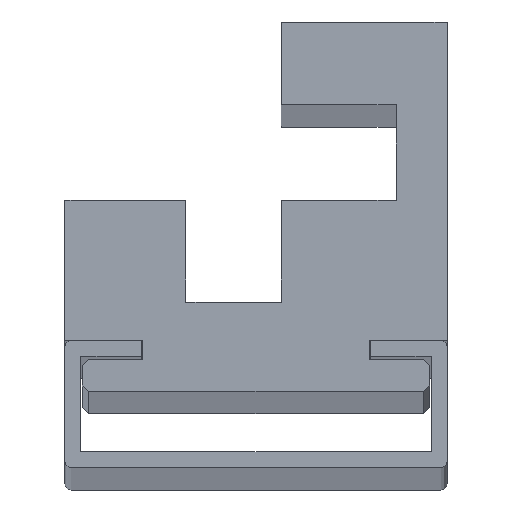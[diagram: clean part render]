
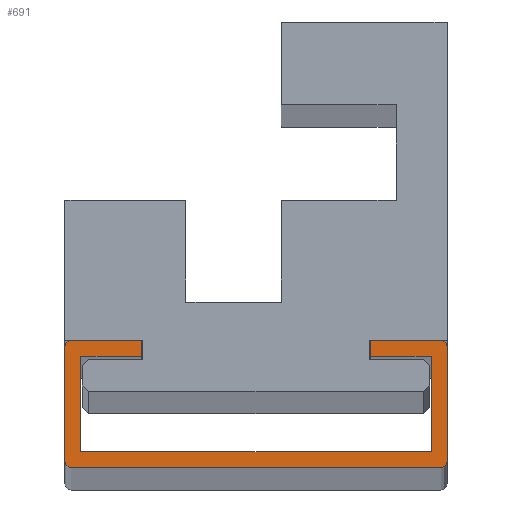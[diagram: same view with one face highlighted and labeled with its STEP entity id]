
A CAD part, top view. The second image highlights one B-rep face of the part: STEP entity #691.
In plain terms, the highlighted planar face has unit normal (0, 0, 1).
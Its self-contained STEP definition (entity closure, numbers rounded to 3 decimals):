
#14 = VERTEX_POINT ( 'NONE', #435 ) ;
#15 = DIRECTION ( 'NONE',  ( 1., 0., 0. ) ) ;
#21 = CIRCLE ( 'NONE', #1214, 1. ) ;
#34 = LINE ( 'NONE', #1415, #684 ) ;
#39 = CARTESIAN_POINT ( 'NONE',  ( 0., 19., 2000. ) ) ;
#40 = DIRECTION ( 'NONE',  ( 0., 1., 0. ) ) ;
#50 = CARTESIAN_POINT ( 'NONE',  ( 59., 20., 2000. ) ) ;
#63 = VERTEX_POINT ( 'NONE', #1074 ) ;
#73 = EDGE_CURVE ( 'NONE', #375, #246, #34, .T. ) ;
#79 = CARTESIAN_POINT ( 'NONE',  ( 57.5, 2.5, 2000. ) ) ;
#84 = CARTESIAN_POINT ( 'NONE',  ( 60., 1., 2000. ) ) ;
#88 = CARTESIAN_POINT ( 'NONE',  ( 57.5, 2.5, 2000. ) ) ;
#106 = CARTESIAN_POINT ( 'NONE',  ( 48., 20., 2000. ) ) ;
#125 = CARTESIAN_POINT ( 'NONE',  ( 12., 17.5, 2000. ) ) ;
#132 = EDGE_CURVE ( 'NONE', #1154, #1307, #1389, .T. ) ;
#179 = AXIS2_PLACEMENT_3D ( 'NONE', #242, #748, #1062 ) ;
#186 = EDGE_CURVE ( 'NONE', #63, #375, #1044, .T. ) ;
#197 = EDGE_CURVE ( 'NONE', #14, #211, #394, .T. ) ;
#208 = FACE_OUTER_BOUND ( 'NONE', #1108, .T. ) ;
#211 = VERTEX_POINT ( 'NONE', #1384 ) ;
#232 = DIRECTION ( 'NONE',  ( 0., 0., 1. ) ) ;
#234 = DIRECTION ( 'NONE',  ( 0., 0., 1. ) ) ;
#238 = VECTOR ( 'NONE', #801, 1000. ) ;
#242 = CARTESIAN_POINT ( 'NONE',  ( 59., 1., 2000. ) ) ;
#246 = VERTEX_POINT ( 'NONE', #88 ) ;
#271 = DIRECTION ( 'NONE',  ( -1., 0., 0. ) ) ;
#341 = EDGE_CURVE ( 'NONE', #592, #1439, #1121, .T. ) ;
#343 = DIRECTION ( 'NONE',  ( 1., 0., 0. ) ) ;
#369 = VERTEX_POINT ( 'NONE', #1170 ) ;
#375 = VERTEX_POINT ( 'NONE', #718 ) ;
#389 = EDGE_CURVE ( 'NONE', #369, #592, #21, .T. ) ;
#394 = CIRCLE ( 'NONE', #646, 1. ) ;
#419 = DIRECTION ( 'NONE',  ( 0., 1., 0. ) ) ;
#435 = CARTESIAN_POINT ( 'NONE',  ( 60., 19., 2000. ) ) ;
#437 = LINE ( 'NONE', #106, #1494 ) ;
#482 = VERTEX_POINT ( 'NONE', #39 ) ;
#512 = ORIENTED_EDGE ( 'NONE', *, *, #1216, .T. ) ;
#541 = LINE ( 'NONE', #1006, #1301 ) ;
#551 = DIRECTION ( 'NONE',  ( 0., 0., 1. ) ) ;
#568 = CARTESIAN_POINT ( 'NONE',  ( 1., 1., 2000. ) ) ;
#580 = ORIENTED_EDGE ( 'NONE', *, *, #1477, .T. ) ;
#581 = EDGE_CURVE ( 'NONE', #211, #598, #615, .T. ) ;
#583 = DIRECTION ( 'NONE',  ( 1., 0., 0. ) ) ;
#588 = CARTESIAN_POINT ( 'NONE',  ( 2.5, 17.5, 2000. ) ) ;
#592 = VERTEX_POINT ( 'NONE', #865 ) ;
#598 = VERTEX_POINT ( 'NONE', #1080 ) ;
#600 = DIRECTION ( 'NONE',  ( 0., -1., 0. ) ) ;
#615 = LINE ( 'NONE', #50, #660 ) ;
#621 = CARTESIAN_POINT ( 'NONE',  ( 12., 17.5, 2000. ) ) ;
#622 = ORIENTED_EDGE ( 'NONE', *, *, #1371, .T. ) ;
#627 = ORIENTED_EDGE ( 'NONE', *, *, #73, .T. ) ;
#638 = VECTOR ( 'NONE', #1482, 1000. ) ;
#646 = AXIS2_PLACEMENT_3D ( 'NONE', #1274, #234, #708 ) ;
#652 = LINE ( 'NONE', #1460, #1228 ) ;
#660 = VECTOR ( 'NONE', #271, 1000. ) ;
#667 = LINE ( 'NONE', #79, #1109 ) ;
#679 = PLANE ( 'NONE',  #1481 ) ;
#684 = VECTOR ( 'NONE', #1081, 1000. ) ;
#691 = ADVANCED_FACE ( 'NONE', ( #208 ), #679, .T. ) ;
#695 = DIRECTION ( 'NONE',  ( 0., -1., 0. ) ) ;
#708 = DIRECTION ( 'NONE',  ( 1., 0., 0. ) ) ;
#718 = CARTESIAN_POINT ( 'NONE',  ( 57.5, 17.5, 2000. ) ) ;
#721 = CARTESIAN_POINT ( 'NONE',  ( 1., 19., 2000. ) ) ;
#727 = CIRCLE ( 'NONE', #179, 1. ) ;
#742 = CARTESIAN_POINT ( 'NONE',  ( 12., 20., 2000. ) ) ;
#748 = DIRECTION ( 'NONE',  ( 0., 0., 1. ) ) ;
#778 = EDGE_CURVE ( 'NONE', #1286, #14, #1037, .T. ) ;
#801 = DIRECTION ( 'NONE',  ( 1., 0., 0. ) ) ;
#827 = DIRECTION ( 'NONE',  ( 0., 0., 1. ) ) ;
#841 = VECTOR ( 'NONE', #1162, 1000. ) ;
#855 = ORIENTED_EDGE ( 'NONE', *, *, #581, .T. ) ;
#865 = CARTESIAN_POINT ( 'NONE',  ( 1., 0., 2000. ) ) ;
#877 = ORIENTED_EDGE ( 'NONE', *, *, #1458, .T. ) ;
#879 = VECTOR ( 'NONE', #343, 1000. ) ;
#931 = EDGE_CURVE ( 'NONE', #1120, #482, #976, .T. ) ;
#943 = LINE ( 'NONE', #1173, #1509 ) ;
#956 = EDGE_CURVE ( 'NONE', #482, #369, #943, .T. ) ;
#970 = LINE ( 'NONE', #621, #1089 ) ;
#976 = CIRCLE ( 'NONE', #1413, 1. ) ;
#979 = CARTESIAN_POINT ( 'NONE',  ( 60., 1., 2000. ) ) ;
#981 = ORIENTED_EDGE ( 'NONE', *, *, #389, .T. ) ;
#999 = CARTESIAN_POINT ( 'NONE',  ( 59., 0., 2000. ) ) ;
#1006 = CARTESIAN_POINT ( 'NONE',  ( 12., 20., 2000. ) ) ;
#1010 = CARTESIAN_POINT ( 'NONE',  ( 1., 19., 2000. ) ) ;
#1014 = CARTESIAN_POINT ( 'NONE',  ( 2.5, 17.5, 2000. ) ) ;
#1026 = DIRECTION ( 'NONE',  ( -1., 0., 0. ) ) ;
#1037 = LINE ( 'NONE', #84, #638 ) ;
#1044 = LINE ( 'NONE', #1396, #879 ) ;
#1062 = DIRECTION ( 'NONE',  ( 1., 0., 0. ) ) ;
#1067 = ORIENTED_EDGE ( 'NONE', *, *, #186, .T. ) ;
#1074 = CARTESIAN_POINT ( 'NONE',  ( 48., 17.5, 2000. ) ) ;
#1080 = CARTESIAN_POINT ( 'NONE',  ( 48., 20., 2000. ) ) ;
#1081 = DIRECTION ( 'NONE',  ( 0., -1., 0. ) ) ;
#1083 = ORIENTED_EDGE ( 'NONE', *, *, #1379, .T. ) ;
#1089 = VECTOR ( 'NONE', #40, 1000. ) ;
#1093 = ORIENTED_EDGE ( 'NONE', *, *, #197, .T. ) ;
#1108 = EDGE_LOOP ( 'NONE', ( #1347, #877, #1325, #1401, #981, #1501, #512, #1297, #1093, #855, #580, #1067, #627, #622, #1083, #1387 ) ) ;
#1109 = VECTOR ( 'NONE', #1239, 1000. ) ;
#1120 = VERTEX_POINT ( 'NONE', #1129 ) ;
#1121 = LINE ( 'NONE', #1370, #238 ) ;
#1129 = CARTESIAN_POINT ( 'NONE',  ( 1., 20., 2000. ) ) ;
#1148 = DIRECTION ( 'NONE',  ( 1., 0., 0. ) ) ;
#1154 = VERTEX_POINT ( 'NONE', #1014 ) ;
#1162 = DIRECTION ( 'NONE',  ( 1., 0., 0. ) ) ;
#1170 = CARTESIAN_POINT ( 'NONE',  ( 0., 1., 2000. ) ) ;
#1173 = CARTESIAN_POINT ( 'NONE',  ( 0., 19., 2000. ) ) ;
#1202 = EDGE_CURVE ( 'NONE', #1307, #1291, #970, .T. ) ;
#1214 = AXIS2_PLACEMENT_3D ( 'NONE', #568, #232, #15 ) ;
#1216 = EDGE_CURVE ( 'NONE', #1439, #1286, #727, .T. ) ;
#1223 = CARTESIAN_POINT ( 'NONE',  ( 2.5, 2.5, 2000. ) ) ;
#1228 = VECTOR ( 'NONE', #419, 1000. ) ;
#1239 = DIRECTION ( 'NONE',  ( -1., 0., 0. ) ) ;
#1274 = CARTESIAN_POINT ( 'NONE',  ( 59., 19., 2000. ) ) ;
#1286 = VERTEX_POINT ( 'NONE', #979 ) ;
#1291 = VERTEX_POINT ( 'NONE', #742 ) ;
#1297 = ORIENTED_EDGE ( 'NONE', *, *, #778, .T. ) ;
#1301 = VECTOR ( 'NONE', #1026, 1000. ) ;
#1307 = VERTEX_POINT ( 'NONE', #125 ) ;
#1325 = ORIENTED_EDGE ( 'NONE', *, *, #931, .T. ) ;
#1347 = ORIENTED_EDGE ( 'NONE', *, *, #1202, .T. ) ;
#1370 = CARTESIAN_POINT ( 'NONE',  ( 1., 0., 2000. ) ) ;
#1371 = EDGE_CURVE ( 'NONE', #246, #1424, #667, .T. ) ;
#1379 = EDGE_CURVE ( 'NONE', #1424, #1154, #652, .T. ) ;
#1384 = CARTESIAN_POINT ( 'NONE',  ( 59., 20., 2000. ) ) ;
#1387 = ORIENTED_EDGE ( 'NONE', *, *, #132, .T. ) ;
#1389 = LINE ( 'NONE', #588, #841 ) ;
#1396 = CARTESIAN_POINT ( 'NONE',  ( 48., 17.5, 2000. ) ) ;
#1401 = ORIENTED_EDGE ( 'NONE', *, *, #956, .T. ) ;
#1413 = AXIS2_PLACEMENT_3D ( 'NONE', #721, #827, #583 ) ;
#1415 = CARTESIAN_POINT ( 'NONE',  ( 57.5, 17.5, 2000. ) ) ;
#1424 = VERTEX_POINT ( 'NONE', #1223 ) ;
#1439 = VERTEX_POINT ( 'NONE', #999 ) ;
#1458 = EDGE_CURVE ( 'NONE', #1291, #1120, #541, .T. ) ;
#1460 = CARTESIAN_POINT ( 'NONE',  ( 2.5, 2.5, 2000. ) ) ;
#1477 = EDGE_CURVE ( 'NONE', #598, #63, #437, .T. ) ;
#1481 = AXIS2_PLACEMENT_3D ( 'NONE', #1010, #551, #1148 ) ;
#1482 = DIRECTION ( 'NONE',  ( 0., 1., 0. ) ) ;
#1494 = VECTOR ( 'NONE', #695, 1000. ) ;
#1501 = ORIENTED_EDGE ( 'NONE', *, *, #341, .T. ) ;
#1509 = VECTOR ( 'NONE', #600, 1000. ) ;
